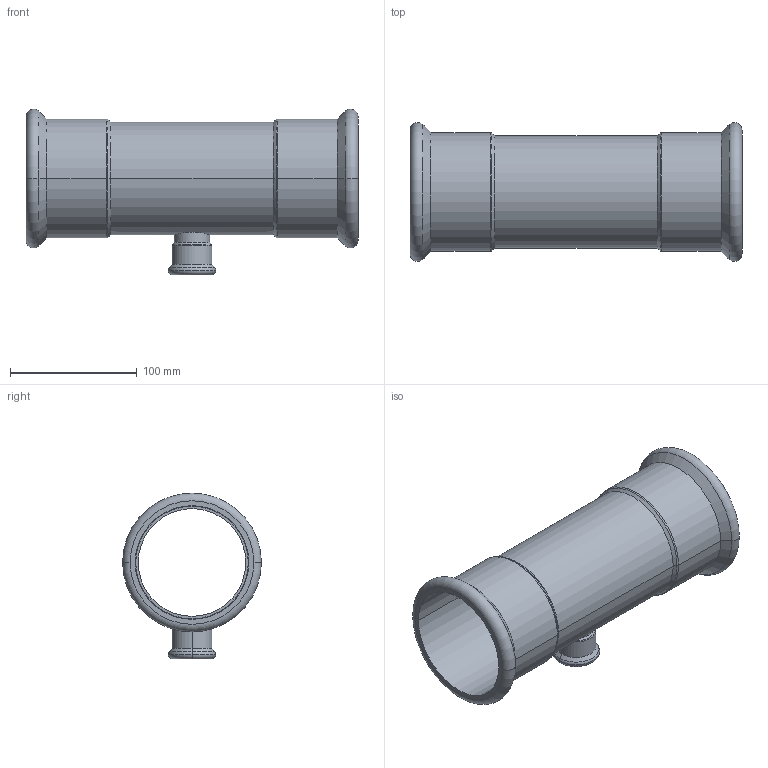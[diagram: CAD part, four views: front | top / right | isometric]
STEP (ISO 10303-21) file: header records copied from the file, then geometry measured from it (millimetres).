
FILE_DESCRIPTION(('CoCreate Modeling STEP Export'),'2;1');
FILE_NAME('C1415 88.9x28x88.9.stp','2014-11-12T10:51:49',(''),(''),'CoCreate Modeling STEP processor for AP214 (Solid Model)','CoCreate Modeling 17.00A 17-Jun-2010 (C) Parametric Technology GmbH','');
FILE_SCHEMA(('AUTOMOTIVE_DESIGN { 1 0 10303 214 1 1 1 1 }'));
Length unit declared in the file: millimetre
Products named in the file (2): C1415_89x28x89
Assembly tree (1 placements, depth 2):
  C1415_89x28x89
    C1415_89x28x89
Bounding box: 262 x 109.48 x 130.74 mm (x, y, z)
Volume: 213055.9 mm3; surface area: 163466.6 mm2
Topology: 1 solids, 1 shells, 65 faces, 133 edges, 79 vertices
Faces by surface type: cylinder 29, torus 14, cone 12, plane 10
Entity records: 2593 total; most frequent: CARTESIAN_POINT 1375, ORIENTED_EDGE 266, DIRECTION 216, EDGE_CURVE 133, AXIS2_PLACEMENT_3D 88, VERTEX_POINT 79, EDGE_LOOP 76, FACE_OUTER_BOUND 65
